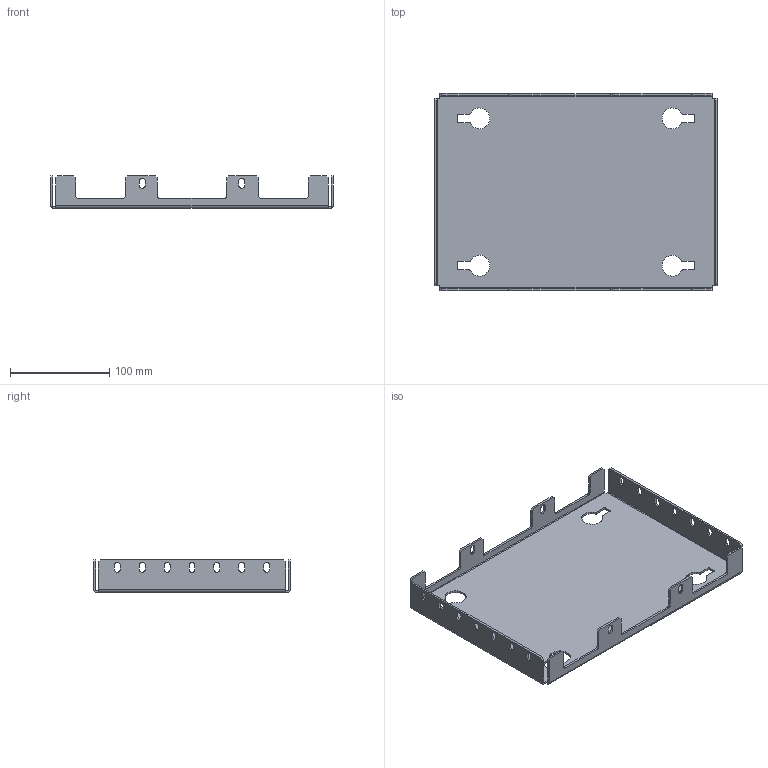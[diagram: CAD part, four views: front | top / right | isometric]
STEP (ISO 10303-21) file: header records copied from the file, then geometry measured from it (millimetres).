
FILE_DESCRIPTION (( 'STEP AP203' ), '1' );
FILE_NAME ('R5LPS0304.STEP', '2021-12-17T12:10:31', ( '' ), ( '' ), 'SwSTEP 2.0', 'SolidWorks 2020', '' );
FILE_SCHEMA (( 'CONFIG_CONTROL_DESIGN' ));
Length unit declared in the file: millimetre
Products named in the file (1): R5LPS0304
Bounding box: 284 x 198 x 32.5 mm (x, y, z)
Volume: 146568.6 mm3; surface area: 151122.4 mm2
Topology: 1 solids, 1 shells, 226 faces, 640 edges, 416 vertices
Faces by surface type: plane 130, cylinder 96
Entity records: 7485 total; most frequent: DIRECTION 1286, CARTESIAN_POINT 1283, ORIENTED_EDGE 1280, EDGE_CURVE 640, VECTOR 448, LINE 448, AXIS2_PLACEMENT_3D 419, VERTEX_POINT 416
